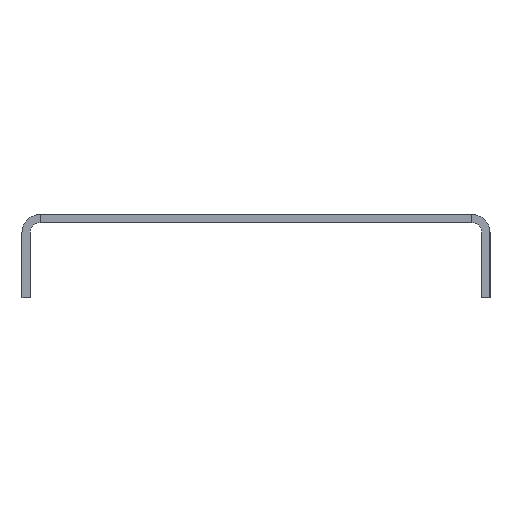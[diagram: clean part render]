
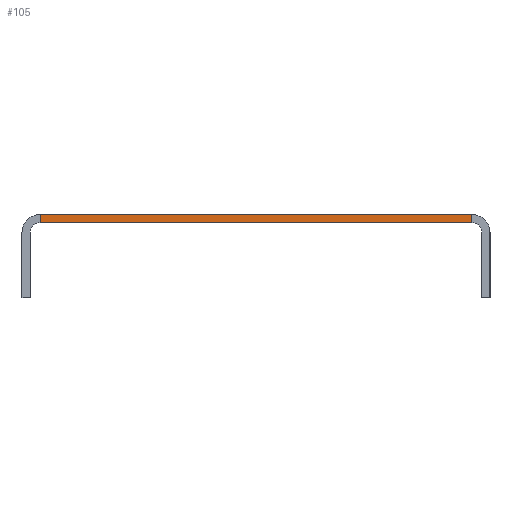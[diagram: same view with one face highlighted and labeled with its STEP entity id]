
A CAD part, left-side view. The second image highlights one B-rep face of the part: STEP entity #105.
In plain terms, the highlighted planar face has unit normal (-1, 0, 0).
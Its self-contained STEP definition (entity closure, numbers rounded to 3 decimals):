
#105=ADVANCED_FACE('',(#527),#529,.T.);
#527=FACE_BOUND('',#528,.T.);
#528=EDGE_LOOP('',(#1199,#1200,#1201,#1202));
#529=PLANE('',#530);
#530=AXIS2_PLACEMENT_3D('',#531,#532,#533);
#531=CARTESIAN_POINT('',(-236.,38.7,-1.5));
#532=DIRECTION('',(-1.,0.,0.));
#533=DIRECTION('',(0.,0.,1.));
#1199=ORIENTED_EDGE('',*,*,#1724,.F.);
#1200=ORIENTED_EDGE('',*,*,#1725,.F.);
#1201=ORIENTED_EDGE('',*,*,#1726,.T.);
#1202=ORIENTED_EDGE('',*,*,#1727,.T.);
#1724=EDGE_CURVE('',#2172,#2173,#2174,.T.);
#1725=EDGE_CURVE('',#2175,#2172,#2176,.T.);
#1726=EDGE_CURVE('',#2175,#2177,#2178,.T.);
#1727=EDGE_CURVE('',#2177,#2173,#2179,.T.);
#2172=VERTEX_POINT('',#3062);
#2173=VERTEX_POINT('',#3063);
#2174=LINE('',#3064,#3065);
#2175=VERTEX_POINT('',#3067);
#2176=LINE('',#3068,#3069);
#2177=VERTEX_POINT('',#3071);
#2178=LINE('',#3072,#3073);
#2179=LINE('',#3075,#3076);
#3062=CARTESIAN_POINT('',(-236.,38.7,0.));
#3063=CARTESIAN_POINT('',(-236.,-38.7,0.));
#3064=CARTESIAN_POINT('',(-236.,38.7,0.));
#3065=VECTOR('',#3066,1.);
#3066=DIRECTION('',(0.,-1.,0.));
#3067=CARTESIAN_POINT('',(-236.,38.7,-1.5));
#3068=CARTESIAN_POINT('',(-236.,38.7,-1.5));
#3069=VECTOR('',#3070,1.);
#3070=DIRECTION('',(0.,0.,1.));
#3071=CARTESIAN_POINT('',(-236.,-38.7,-1.5));
#3072=CARTESIAN_POINT('',(-236.,38.7,-1.5));
#3073=VECTOR('',#3074,1.);
#3074=DIRECTION('',(0.,-1.,0.));
#3075=CARTESIAN_POINT('',(-236.,-38.7,-1.5));
#3076=VECTOR('',#3077,1.);
#3077=DIRECTION('',(0.,0.,1.));
